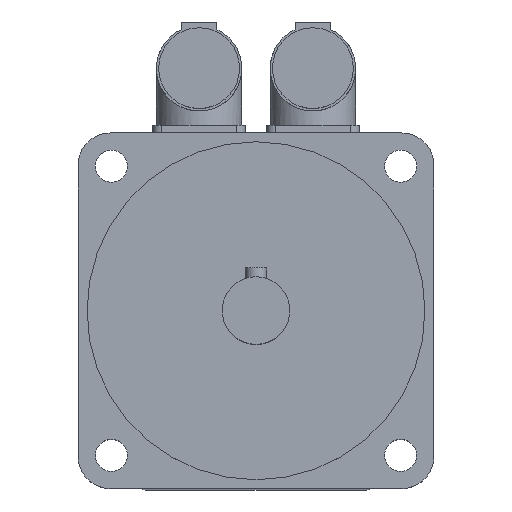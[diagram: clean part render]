
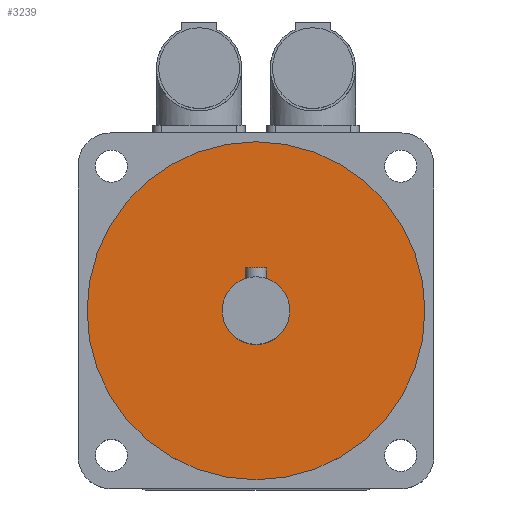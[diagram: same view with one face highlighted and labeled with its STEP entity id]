
A CAD part, top view. The second image highlights one B-rep face of the part: STEP entity #3239.
In plain terms, the highlighted planar face has unit normal (0, 0, 1).
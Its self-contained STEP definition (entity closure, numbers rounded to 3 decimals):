
#36=FACE_BOUND('',#567,.T.);
#71=PLANE('',#3478);
#182=CIRCLE('',#3473,9.5);
#183=CIRCLE('',#3476,47.5);
#368=FACE_OUTER_BOUND('',#566,.T.);
#566=EDGE_LOOP('',(#2309));
#567=EDGE_LOOP('',(#2310));
#1393=VERTEX_POINT('',#5230);
#1394=VERTEX_POINT('',#5234);
#1743=EDGE_CURVE('',#1393,#1393,#182,.T.);
#1744=EDGE_CURVE('',#1394,#1394,#183,.T.);
#2309=ORIENTED_EDGE('',*,*,#1744,.T.);
#2310=ORIENTED_EDGE('',*,*,#1743,.T.);
#3239=ADVANCED_FACE('',(#368,#36),#71,.F.);
#3473=AXIS2_PLACEMENT_3D('',#5231,#3962,#3963);
#3476=AXIS2_PLACEMENT_3D('',#5235,#3968,#3969);
#3478=AXIS2_PLACEMENT_3D('',#5238,#3972,#3973);
#3962=DIRECTION('center_axis',(0.,0.,-1.));
#3963=DIRECTION('ref_axis',(-1.,0.,0.));
#3968=DIRECTION('center_axis',(0.,0.,
1.));
#3969=DIRECTION('ref_axis',(-1.,0.,0.));
#3972=DIRECTION('center_axis',(0.,0.,-1.));
#3973=DIRECTION('ref_axis',(-1.,0.,0.));
#5230=CARTESIAN_POINT('',(9.5,0.,206.));
#5231=CARTESIAN_POINT('Origin',(0.,0.,
206.));
#5234=CARTESIAN_POINT('',(47.5,0.,206.));
#5235=CARTESIAN_POINT('Origin',(0.,0.,
206.));
#5238=CARTESIAN_POINT('Origin',(0.,0.,
206.));
